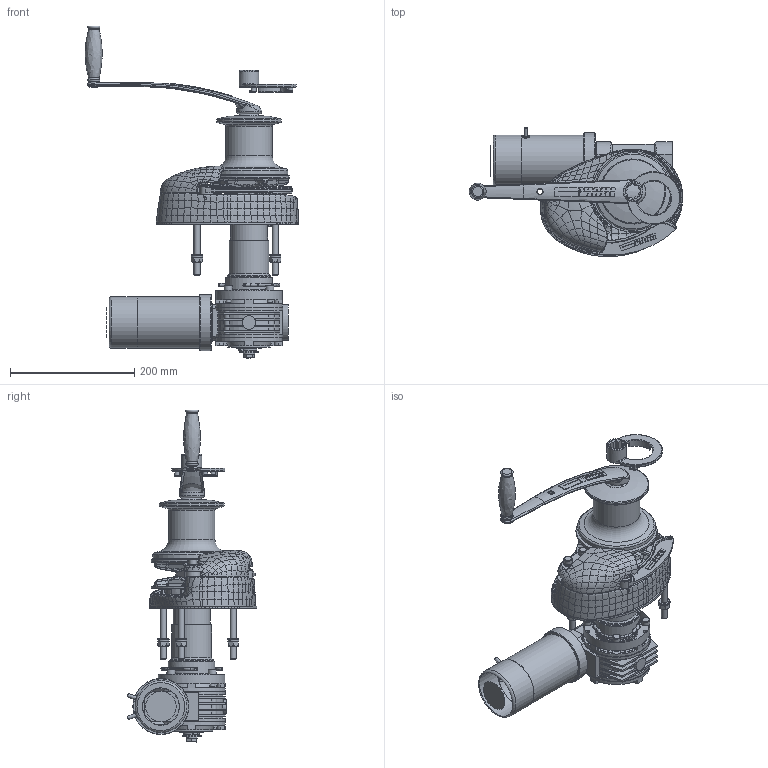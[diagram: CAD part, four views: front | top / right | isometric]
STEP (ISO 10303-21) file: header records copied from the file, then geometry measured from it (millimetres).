
FILE_DESCRIPTION(/* description */ (''),/* implementation_level */ '2;1');
FILE_NAME(/* name */ 'VRC850 - 6-8-10mm.stp',/* time_stamp */ '2025-11-28T08:22:21+11:00',/* author */ ('markus.mendgen'),/* organization */ (''),/* preprocessor_version */ 'ST-DEVELOPER v20',/* originating_system */ 'Autodesk Inventor 2025',/* authorisation */ '');
FILE_SCHEMA (('AUTOMOTIVE_DESIGN { 1 0 10303 214 3 1 1 }'));
Products named in the file (1): U001003_Simplify
Bounding box: 343.14 x 208.46 x 533.52 mm (x, y, z)
Volume: 4021714.3 mm3; surface area: 582782.6 mm2
Topology: 5 solids, 6 shells, 4834 faces, 12499 edges, 7599 vertices
Faces by surface type: bspline 2021, cylinder 1115, plane 1063, torus 335, sphere 154, cone 146
Full cylindrical faces by diameter (mm): 2 x4, 5 x1, 6 x2, 7.875 x1, 8 x10, 9 x2, 10 x10, 12 x2, 12.2 x1, 13 x7, 15.75 x1, 17 x1, 18 x3, 19 x1, 22 x1, 24.95 x2, 25.06 x1, 25.1 x1, 26.5 x1, 28 x1, 30 x1, 32 x1, 35.05 x1, 36.05 x1, 36.2 x1, 36.5 x1, 37 x1, 40 x2, 43.57 x1, 48.05 x1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
Entity records: 398090 total; most frequent: CARTESIAN_POINT 296673, ORIENTED_EDGE 24688, DIRECTION 15509, EDGE_CURVE 12346, VERTEX_POINT 7594, AXIS2_PLACEMENT_3D 6095, B_SPLINE_CURVE_WITH_KNOTS 5625, EDGE_LOOP 4972
